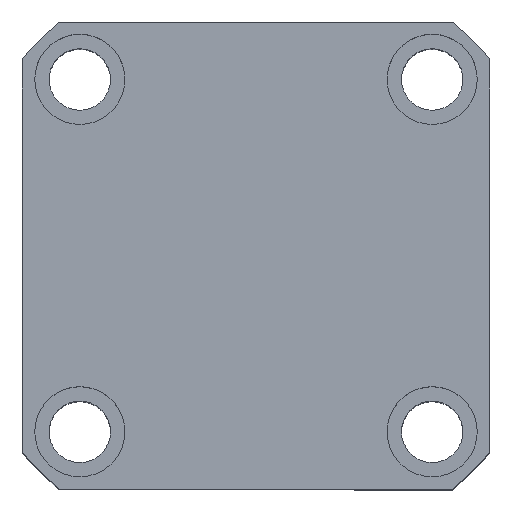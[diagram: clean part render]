
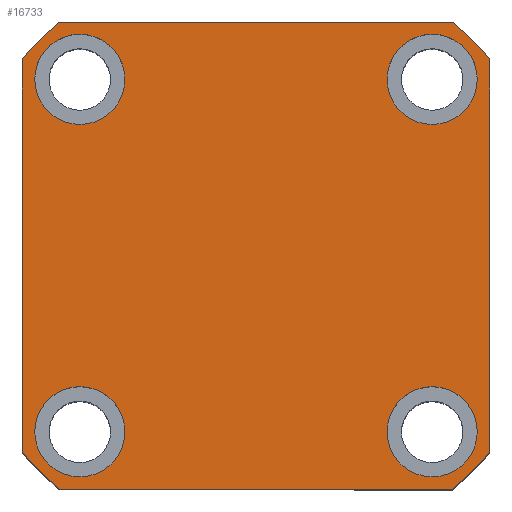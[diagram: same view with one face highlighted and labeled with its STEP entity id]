
A CAD part, top view. The second image highlights one B-rep face of the part: STEP entity #16733.
In plain terms, the highlighted planar face has unit normal (0, 0, 1) as drawn and (0, 0, -1) by its records, which use the part's own axes.
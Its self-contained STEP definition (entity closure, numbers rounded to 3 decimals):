
#71 = EDGE_CURVE ( 'NONE', #6905, #4948, #19769, .T. ) ;
#123 = VECTOR ( 'NONE', #17017, 1000. ) ;
#141 = CIRCLE ( 'NONE', #17108, 11. ) ;
#245 = ORIENTED_EDGE ( 'NONE', *, *, #5986, .F. ) ;
#533 = EDGE_CURVE ( 'NONE', #13564, #4436, #1488, .T. ) ;
#579 = DIRECTION ( 'NONE',  ( 1., 0., 0. ) ) ;
#617 = DIRECTION ( 'NONE',  ( 1., 0., 0. ) ) ;
#638 = VECTOR ( 'NONE', #6084, 1000. ) ;
#719 = AXIS2_PLACEMENT_3D ( 'NONE', #10445, #1045, #12046 ) ;
#1045 = DIRECTION ( 'NONE',  ( 0., 0., -1. ) ) ;
#1062 = DIRECTION ( 'NONE',  ( -1., 0., 0. ) ) ;
#1088 = CARTESIAN_POINT ( 'NONE',  ( 57., 57., 0. ) ) ;
#1303 = CARTESIAN_POINT ( 'NONE',  ( -54., 43., 0. ) ) ;
#1354 = EDGE_CURVE ( 'NONE', #11314, #18516, #7274, .T. ) ;
#1488 = CIRCLE ( 'NONE', #15838, 11. ) ;
#1971 = ORIENTED_EDGE ( 'NONE', *, *, #12399, .F. ) ;
#2043 = VERTEX_POINT ( 'NONE', #11652 ) ;
#2073 = CARTESIAN_POINT ( 'NONE',  ( 0., 0., 0. ) ) ;
#2200 = DIRECTION ( 'NONE',  ( 0., 1., 0. ) ) ;
#2807 = AXIS2_PLACEMENT_3D ( 'NONE', #19520, #9995, #617 ) ;
#2872 = FACE_BOUND ( 'NONE', #9759, .T. ) ;
#2902 = VERTEX_POINT ( 'NONE', #19549 ) ;
#2927 = CARTESIAN_POINT ( 'NONE',  ( -57., 57., 0. ) ) ;
#2936 = ORIENTED_EDGE ( 'NONE', *, *, #17881, .F. ) ;
#2974 = VERTEX_POINT ( 'NONE', #19684 ) ;
#2988 = CARTESIAN_POINT ( 'NONE',  ( -54., -43., 0. ) ) ;
#3057 = VERTEX_POINT ( 'NONE', #8735 ) ;
#3144 = EDGE_LOOP ( 'NONE', ( #9302, #13533 ) ) ;
#3234 = AXIS2_PLACEMENT_3D ( 'NONE', #19478, #9958, #579 ) ;
#3465 = VECTOR ( 'NONE', #2200, 1000. ) ;
#3522 = DIRECTION ( 'NONE',  ( -1., 0., 0. ) ) ;
#3636 = DIRECTION ( 'NONE',  ( 0., 0., 1. ) ) ;
#3822 = CIRCLE ( 'NONE', #3234, 74.5 ) ;
#3904 = ORIENTED_EDGE ( 'NONE', *, *, #9904, .F. ) ;
#3992 = AXIS2_PLACEMENT_3D ( 'NONE', #8821, #19933, #10406 ) ;
#4236 = EDGE_CURVE ( 'NONE', #9563, #17843, #6777, .T. ) ;
#4436 = VERTEX_POINT ( 'NONE', #2988 ) ;
#4503 = EDGE_CURVE ( 'NONE', #18516, #11314, #5276, .T. ) ;
#4691 = CARTESIAN_POINT ( 'NONE',  ( -43., 43., 0. ) ) ;
#4815 = LINE ( 'NONE', #2927, #638 ) ;
#4948 = VERTEX_POINT ( 'NONE', #11750 ) ;
#5013 = DIRECTION ( 'NONE',  ( 0., 0., -1. ) ) ;
#5081 = CARTESIAN_POINT ( 'NONE',  ( -43., -43., 0. ) ) ;
#5192 = CARTESIAN_POINT ( 'NONE',  ( 43., -43., 0. ) ) ;
#5200 = CARTESIAN_POINT ( 'NONE',  ( 32., 43., 0. ) ) ;
#5276 = CIRCLE ( 'NONE', #7139, 11. ) ;
#5769 = CIRCLE ( 'NONE', #2807, 74.5 ) ;
#5879 = CARTESIAN_POINT ( 'NONE',  ( -57., 57., 0. ) ) ;
#5986 = EDGE_CURVE ( 'NONE', #3057, #13591, #5769, .T. ) ;
#6084 = DIRECTION ( 'NONE',  ( -1., 0., 0. ) ) ;
#6277 = DIRECTION ( 'NONE',  ( -1., 0., 0. ) ) ;
#6495 = EDGE_CURVE ( 'NONE', #13591, #15578, #11170, .T. ) ;
#6663 = DIRECTION ( 'NONE',  ( 0., 0., 1. ) ) ;
#6777 = CIRCLE ( 'NONE', #19819, 11. ) ;
#6793 = DIRECTION ( 'NONE',  ( -1., 0., 0. ) ) ;
#6905 = VERTEX_POINT ( 'NONE', #9831 ) ;
#6936 = CIRCLE ( 'NONE', #18718, 74.5 ) ;
#7027 = CIRCLE ( 'NONE', #3992, 11. ) ;
#7139 = AXIS2_PLACEMENT_3D ( 'NONE', #4691, #15765, #6277 ) ;
#7274 = CIRCLE ( 'NONE', #9686, 11. ) ;
#7528 = VECTOR ( 'NONE', #13636, 1000. ) ;
#8186 = EDGE_CURVE ( 'NONE', #14859, #2974, #141, .T. ) ;
#8438 = EDGE_CURVE ( 'NONE', #4436, #13564, #7027, .T. ) ;
#8563 = ORIENTED_EDGE ( 'NONE', *, *, #17578, .F. ) ;
#8722 = CIRCLE ( 'NONE', #719, 11. ) ;
#8735 = CARTESIAN_POINT ( 'NONE',  ( -47.971, 57., 0. ) ) ;
#8821 = CARTESIAN_POINT ( 'NONE',  ( -43., -43., 0. ) ) ;
#8832 = CARTESIAN_POINT ( 'NONE',  ( -57., -57., 0. ) ) ;
#8991 = CARTESIAN_POINT ( 'NONE',  ( 43., 43., 0. ) ) ;
#8995 = CARTESIAN_POINT ( 'NONE',  ( -57., 47.971, 0. ) ) ;
#9172 = DIRECTION ( 'NONE',  ( 0., 0., 1. ) ) ;
#9302 = ORIENTED_EDGE ( 'NONE', *, *, #8438, .F. ) ;
#9563 = VERTEX_POINT ( 'NONE', #5200 ) ;
#9608 = DIRECTION ( 'NONE',  ( -1., 0., 0. ) ) ;
#9686 = AXIS2_PLACEMENT_3D ( 'NONE', #9742, #11138, #9608 ) ;
#9742 = CARTESIAN_POINT ( 'NONE',  ( -43., 43., 0. ) ) ;
#9759 = EDGE_LOOP ( 'NONE', ( #18236, #1971 ) ) ;
#9793 = ORIENTED_EDGE ( 'NONE', *, *, #18189, .F. ) ;
#9831 = CARTESIAN_POINT ( 'NONE',  ( 57., -47.971, 0. ) ) ;
#9904 = EDGE_CURVE ( 'NONE', #15578, #2043, #15204, .T. ) ;
#9958 = DIRECTION ( 'NONE',  ( 0., 0., 1. ) ) ;
#9995 = DIRECTION ( 'NONE',  ( 0., 0., 1. ) ) ;
#10406 = DIRECTION ( 'NONE',  ( -1., 0., 0. ) ) ;
#10445 = CARTESIAN_POINT ( 'NONE',  ( 43., -43., 0. ) ) ;
#10464 = DIRECTION ( 'NONE',  ( 0., 0., -1. ) ) ;
#10577 = DIRECTION ( 'NONE',  ( -1., 0., 0. ) ) ;
#11138 = DIRECTION ( 'NONE',  ( 0., 0., -1. ) ) ;
#11170 = LINE ( 'NONE', #5879, #123 ) ;
#11314 = VERTEX_POINT ( 'NONE', #1303 ) ;
#11337 = CARTESIAN_POINT ( 'NONE',  ( -32., 43., 0. ) ) ;
#11464 = PLANE ( 'NONE',  #16069 ) ;
#11588 = VERTEX_POINT ( 'NONE', #13173 ) ;
#11643 = AXIS2_PLACEMENT_3D ( 'NONE', #18667, #9172, #20282 ) ;
#11652 = CARTESIAN_POINT ( 'NONE',  ( -47.971, -57., 0. ) ) ;
#11750 = CARTESIAN_POINT ( 'NONE',  ( 57., 47.971, 0. ) ) ;
#11784 = CARTESIAN_POINT ( 'NONE',  ( -57., -47.971, 0. ) ) ;
#12046 = DIRECTION ( 'NONE',  ( -1., 0., 0. ) ) ;
#12203 = LINE ( 'NONE', #8832, #7528 ) ;
#12283 = ORIENTED_EDGE ( 'NONE', *, *, #6495, .F. ) ;
#12399 = EDGE_CURVE ( 'NONE', #17843, #9563, #17364, .T. ) ;
#12983 = EDGE_LOOP ( 'NONE', ( #2936, #15545, #19735, #20248, #3904, #12283, #245, #8563 ) ) ;
#13173 = CARTESIAN_POINT ( 'NONE',  ( 47.971, -57., 0. ) ) ;
#13533 = ORIENTED_EDGE ( 'NONE', *, *, #533, .F. ) ;
#13564 = VERTEX_POINT ( 'NONE', #15253 ) ;
#13591 = VERTEX_POINT ( 'NONE', #8995 ) ;
#13636 = DIRECTION ( 'NONE',  ( 1., 0., 0. ) ) ;
#13913 = EDGE_CURVE ( 'NONE', #11588, #6905, #6936, .T. ) ;
#14530 = ORIENTED_EDGE ( 'NONE', *, *, #1354, .F. ) ;
#14676 = DIRECTION ( 'NONE',  ( 1., 0., 0. ) ) ;
#14859 = VERTEX_POINT ( 'NONE', #14947 ) ;
#14947 = CARTESIAN_POINT ( 'NONE',  ( 32., -43., 0. ) ) ;
#14960 = FACE_OUTER_BOUND ( 'NONE', #12983, .T. ) ;
#15030 = ORIENTED_EDGE ( 'NONE', *, *, #4503, .F. ) ;
#15204 = CIRCLE ( 'NONE', #11643, 74.5 ) ;
#15253 = CARTESIAN_POINT ( 'NONE',  ( -32., -43., 0. ) ) ;
#15477 = FACE_BOUND ( 'NONE', #3144, .T. ) ;
#15545 = ORIENTED_EDGE ( 'NONE', *, *, #71, .F. ) ;
#15578 = VERTEX_POINT ( 'NONE', #11784 ) ;
#15765 = DIRECTION ( 'NONE',  ( 0., 0., -1. ) ) ;
#15838 = AXIS2_PLACEMENT_3D ( 'NONE', #5081, #5013, #3522 ) ;
#16069 = AXIS2_PLACEMENT_3D ( 'NONE', #2073, #3636, #14676 ) ;
#16162 = CARTESIAN_POINT ( 'NONE',  ( 0., 0., 0. ) ) ;
#16289 = DIRECTION ( 'NONE',  ( 0., 0., -1. ) ) ;
#16733 = ADVANCED_FACE ( 'NONE', ( #15477, #19666, #2872, #19170, #14960 ), #11464, .F. ) ;
#17017 = DIRECTION ( 'NONE',  ( 0., -1., 0. ) ) ;
#17108 = AXIS2_PLACEMENT_3D ( 'NONE', #5192, #16289, #6793 ) ;
#17364 = CIRCLE ( 'NONE', #18165, 11. ) ;
#17578 = EDGE_CURVE ( 'NONE', #2902, #3057, #4815, .T. ) ;
#17721 = DIRECTION ( 'NONE',  ( 1., 0., 0. ) ) ;
#17751 = CARTESIAN_POINT ( 'NONE',  ( 54., 43., 0. ) ) ;
#17752 = ORIENTED_EDGE ( 'NONE', *, *, #8186, .F. ) ;
#17843 = VERTEX_POINT ( 'NONE', #17751 ) ;
#17881 = EDGE_CURVE ( 'NONE', #4948, #2902, #3822, .T. ) ;
#17941 = EDGE_LOOP ( 'NONE', ( #14530, #15030 ) ) ;
#18165 = AXIS2_PLACEMENT_3D ( 'NONE', #8991, #20107, #10577 ) ;
#18189 = EDGE_CURVE ( 'NONE', #2974, #14859, #8722, .T. ) ;
#18236 = ORIENTED_EDGE ( 'NONE', *, *, #4236, .F. ) ;
#18516 = VERTEX_POINT ( 'NONE', #11337 ) ;
#18667 = CARTESIAN_POINT ( 'NONE',  ( 0., 0., 0. ) ) ;
#18718 = AXIS2_PLACEMENT_3D ( 'NONE', #16162, #6663, #17721 ) ;
#19170 = FACE_BOUND ( 'NONE', #17941, .T. ) ;
#19478 = CARTESIAN_POINT ( 'NONE',  ( 0., 0., 0. ) ) ;
#19520 = CARTESIAN_POINT ( 'NONE',  ( 0., 0., 0. ) ) ;
#19549 = CARTESIAN_POINT ( 'NONE',  ( 47.971, 57., 0. ) ) ;
#19582 = EDGE_CURVE ( 'NONE', #2043, #11588, #12203, .T. ) ;
#19666 = FACE_BOUND ( 'NONE', #20456, .T. ) ;
#19684 = CARTESIAN_POINT ( 'NONE',  ( 54., -43., 0. ) ) ;
#19735 = ORIENTED_EDGE ( 'NONE', *, *, #13913, .F. ) ;
#19769 = LINE ( 'NONE', #1088, #3465 ) ;
#19819 = AXIS2_PLACEMENT_3D ( 'NONE', #19987, #10464, #1062 ) ;
#19933 = DIRECTION ( 'NONE',  ( 0., 0., -1. ) ) ;
#19987 = CARTESIAN_POINT ( 'NONE',  ( 43., 43., 0. ) ) ;
#20107 = DIRECTION ( 'NONE',  ( 0., 0., -1. ) ) ;
#20248 = ORIENTED_EDGE ( 'NONE', *, *, #19582, .F. ) ;
#20282 = DIRECTION ( 'NONE',  ( 1., 0., 0. ) ) ;
#20456 = EDGE_LOOP ( 'NONE', ( #17752, #9793 ) ) ;
